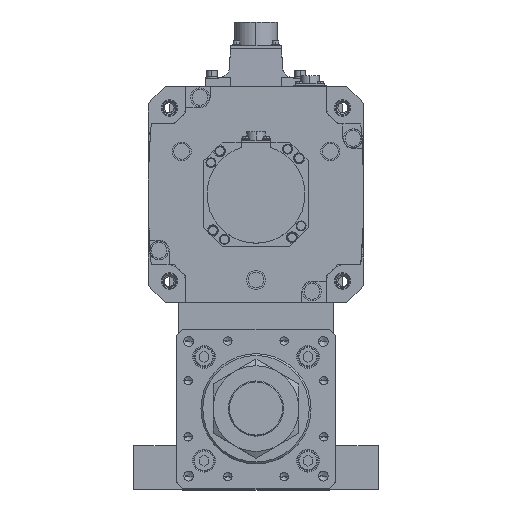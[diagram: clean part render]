
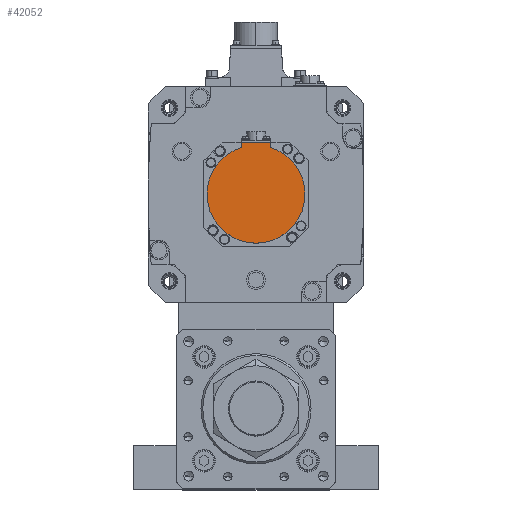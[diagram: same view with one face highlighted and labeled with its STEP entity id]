
A CAD part, top view. The second image highlights one B-rep face of the part: STEP entity #42052.
In plain terms, the highlighted planar face has unit normal (0, 0, 1) as drawn and (0, 0, -1) by its records, which use the part's own axes.
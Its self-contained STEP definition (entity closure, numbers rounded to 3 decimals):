
#791 = CARTESIAN_POINT ( 'NONE',  ( 12., -38.158, -188. ) ) ;
#2230 = CARTESIAN_POINT ( 'NONE',  ( -12., -42.5, -188. ) ) ;
#2675 = LINE ( 'NONE', #17299, #34396 ) ;
#2691 = DIRECTION ( 'NONE',  ( 0., 0., 1. ) ) ;
#2958 = VERTEX_POINT ( 'NONE', #43124 ) ;
#3345 = AXIS2_PLACEMENT_3D ( 'NONE', #54331, #40557, #44882 ) ;
#4341 = CARTESIAN_POINT ( 'NONE',  ( 0., 0., -188. ) ) ;
#5067 = EDGE_CURVE ( 'NONE', #43345, #18431, #10700, .T. ) ;
#5703 = AXIS2_PLACEMENT_3D ( 'NONE', #40856, #2691, #45025 ) ;
#5972 = AXIS2_PLACEMENT_3D ( 'NONE', #4341, #38785, #8864 ) ;
#6886 = VECTOR ( 'NONE', #9856, 1000. ) ;
#8864 = DIRECTION ( 'NONE',  ( 1., 0., 0. ) ) ;
#9074 = CIRCLE ( 'NONE', #5972, 40. ) ;
#9467 = FACE_OUTER_BOUND ( 'NONE', #49424, .T. ) ;
#9856 = DIRECTION ( 'NONE',  ( 0., 1., 0. ) ) ;
#10700 = LINE ( 'NONE', #21273, #32313 ) ;
#11803 = DIRECTION ( 'NONE',  ( 1., 0., 0. ) ) ;
#11984 = DIRECTION ( 'NONE',  ( 0., 0., 1. ) ) ;
#12292 = LINE ( 'NONE', #18763, #6886 ) ;
#12763 = AXIS2_PLACEMENT_3D ( 'NONE', #54759, #11984, #11803 ) ;
#14963 = VERTEX_POINT ( 'NONE', #48386 ) ;
#15562 = CARTESIAN_POINT ( 'NONE',  ( -12., -38.158, -188. ) ) ;
#17299 = CARTESIAN_POINT ( 'NONE',  ( 0., -42.5, -188. ) ) ;
#18431 = VERTEX_POINT ( 'NONE', #15562 ) ;
#18763 = CARTESIAN_POINT ( 'NONE',  ( 12., -1.249, -188. ) ) ;
#21273 = CARTESIAN_POINT ( 'NONE',  ( -12., -40.329, -188. ) ) ;
#22030 = CIRCLE ( 'NONE', #3345, 40. ) ;
#22774 = ORIENTED_EDGE ( 'NONE', *, *, #25469, .F. ) ;
#25469 = EDGE_CURVE ( 'NONE', #2958, #18431, #22030, .T. ) ;
#26313 = EDGE_CURVE ( 'NONE', #38592, #14963, #9074, .T. ) ;
#29830 = EDGE_CURVE ( 'NONE', #44981, #38592, #12292, .T. ) ;
#30667 = DIRECTION ( 'NONE',  ( 0., 1., 0. ) ) ;
#31758 = ORIENTED_EDGE ( 'NONE', *, *, #29830, .F. ) ;
#32313 = VECTOR ( 'NONE', #30667, 1000. ) ;
#34396 = VECTOR ( 'NONE', #51547, 1000. ) ;
#38430 = EDGE_CURVE ( 'NONE', #14963, #2958, #48878, .T. ) ;
#38592 = VERTEX_POINT ( 'NONE', #791 ) ;
#38785 = DIRECTION ( 'NONE',  ( 0., 0., 1. ) ) ;
#40557 = DIRECTION ( 'NONE',  ( 0., 0., 1. ) ) ;
#40856 = CARTESIAN_POINT ( 'NONE',  ( 0., 0., -188. ) ) ;
#40956 = ORIENTED_EDGE ( 'NONE', *, *, #43566, .T. ) ;
#42052 = ADVANCED_FACE ( 'NONE', ( #9467 ), #50413, .F. ) ;
#43124 = CARTESIAN_POINT ( 'NONE',  ( -40., 0., -188. ) ) ;
#43345 = VERTEX_POINT ( 'NONE', #2230 ) ;
#43566 = EDGE_CURVE ( 'NONE', #44981, #43345, #2675, .T. ) ;
#44882 = DIRECTION ( 'NONE',  ( 1., 0., 0. ) ) ;
#44981 = VERTEX_POINT ( 'NONE', #55507 ) ;
#45025 = DIRECTION ( 'NONE',  ( 1., 0., 0. ) ) ;
#48030 = ORIENTED_EDGE ( 'NONE', *, *, #38430, .F. ) ;
#48386 = CARTESIAN_POINT ( 'NONE',  ( 40., 0., -188. ) ) ;
#48878 = CIRCLE ( 'NONE', #5703, 40. ) ;
#49424 = EDGE_LOOP ( 'NONE', ( #52477, #22774, #48030, #55120, #31758, #40956 ) ) ;
#50413 = PLANE ( 'NONE',  #12763 ) ;
#51547 = DIRECTION ( 'NONE',  ( -1., 0., 0. ) ) ;
#52477 = ORIENTED_EDGE ( 'NONE', *, *, #5067, .T. ) ;
#54331 = CARTESIAN_POINT ( 'NONE',  ( 0., 0., -188. ) ) ;
#54759 = CARTESIAN_POINT ( 'NONE',  ( 0., -1.249, -188. ) ) ;
#55120 = ORIENTED_EDGE ( 'NONE', *, *, #26313, .F. ) ;
#55507 = CARTESIAN_POINT ( 'NONE',  ( 12., -42.5, -188. ) ) ;
